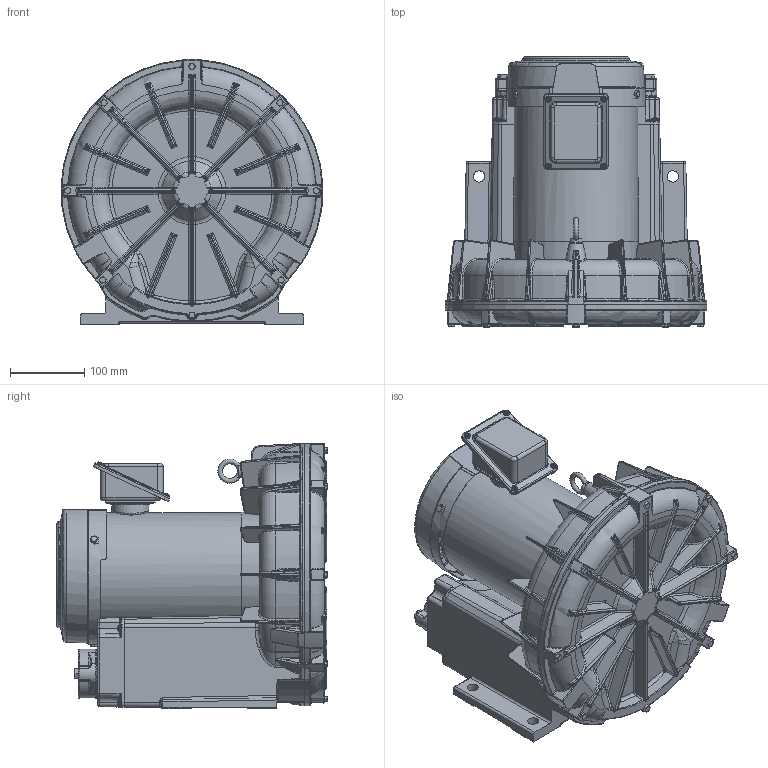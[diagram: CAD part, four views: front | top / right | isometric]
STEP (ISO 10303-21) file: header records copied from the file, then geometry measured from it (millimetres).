
FILE_DESCRIPTION(/* description */ (''),/* implementation_level */ '2;1');
FILE_NAME(/* name */ 'Z:\90_設計課\開發\鼓風機UL化\04-図面\RB 3D圖需求\VFZ501A-7W.stp',/* time_stamp */ '2017-01-05T12:08:48+08:00',/* author */ ('daniel'),/* organization */ (''),/* preprocessor_version */ 'ST-DEVELOPER v16.1',/* originating_system */ 'Autodesk Inventor 2016',/* authorisation */ '');
FILE_SCHEMA (('AUTOMOTIVE_DESIGN { 1 0 10303 214 3 1 1 }'));
Length unit declared in the file: millimetre
Products named in the file (1): VFZ501A-7W
Bounding box: 351.76 x 362.8 x 356.46 mm (x, y, z)
Volume: 17494150.6 mm3; surface area: 872259 mm2
Topology: 1 solids, 1 shells, 4391 faces, 10745 edges, 6194 vertices
Faces by surface type: bspline 1492, cylinder 904, plane 796, torus 630, cone 408, sphere 161
Full cylindrical faces by diameter (mm): 6 x4, 7.4 x4, 22 x1, 44.845 x2, 50 x1, 70 x1, 166.6 x1, 168 x1, 346 x1
Entity records: 192092 total; most frequent: CARTESIAN_POINT 96574, ORIENTED_EDGE 20880, DIRECTION 16728, EDGE_CURVE 10434, AXIS2_PLACEMENT_3D 7244, VERTEX_POINT 6152, EDGE_LOOP 4560, FACE_OUTER_BOUND 4391
